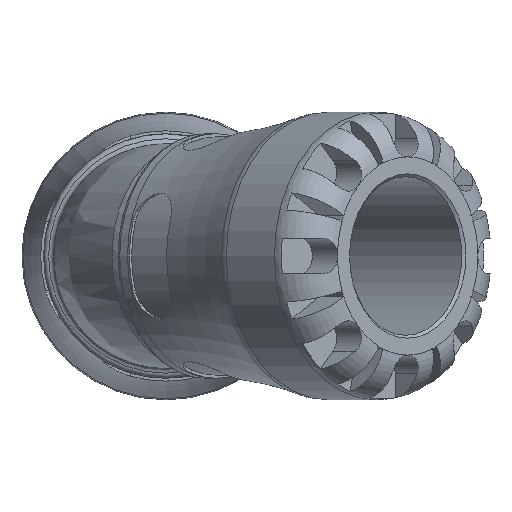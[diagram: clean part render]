
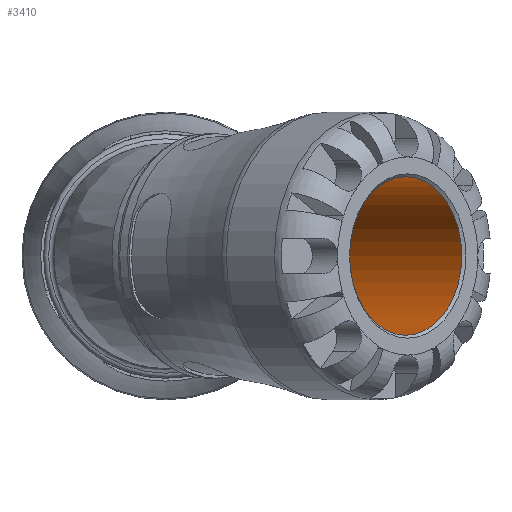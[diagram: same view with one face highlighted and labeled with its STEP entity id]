
A CAD part, left-side view. The second image highlights one B-rep face of the part: STEP entity #3410.
In plain terms, the highlighted cylindrical face has radius 16 mm (diameter 32 mm), a full revolution.
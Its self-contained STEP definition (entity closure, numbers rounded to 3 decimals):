
#160=LINE('',#5557,#330);
#330=VECTOR('',#4185,16.);
#498=CYLINDRICAL_SURFACE('',#3672,16.);
#875=FACE_OUTER_BOUND('',#1071,.T.);
#1071=EDGE_LOOP('',(#2458,#2459,#2460,#2461,#2462,#2463));
#1291=CIRCLE('',#3669,16.);
#1292=CIRCLE('',#3670,16.);
#1294=CIRCLE('',#3673,16.);
#1295=CIRCLE('',#3674,16.);
#1524=VERTEX_POINT('',#5548);
#1525=VERTEX_POINT('',#5549);
#1527=VERTEX_POINT('',#5556);
#1528=VERTEX_POINT('',#5558);
#1884=EDGE_CURVE('',#1524,#1525,#1291,.T.);
#1885=EDGE_CURVE('',#1525,#1524,#1292,.T.);
#1888=EDGE_CURVE('',#1525,#1527,#160,.T.);
#1889=EDGE_CURVE('',#1528,#1527,#1294,.T.);
#1890=EDGE_CURVE('',#1527,#1528,#1295,.T.);
#2458=ORIENTED_EDGE('',*,*,#1884,.F.);
#2459=ORIENTED_EDGE('',*,*,#1885,.F.);
#2460=ORIENTED_EDGE('',*,*,#1888,.T.);
#2461=ORIENTED_EDGE('',*,*,#1889,.F.);
#2462=ORIENTED_EDGE('',*,*,#1890,.F.);
#2463=ORIENTED_EDGE('',*,*,#1888,.F.);
#3410=ADVANCED_FACE('',(#875),#498,.F.);
#3669=AXIS2_PLACEMENT_3D('',#5550,#4176,#4177);
#3670=AXIS2_PLACEMENT_3D('',#5551,#4178,#4179);
#3672=AXIS2_PLACEMENT_3D('',#5555,#4183,#4184);
#3673=AXIS2_PLACEMENT_3D('',#5559,#4186,#4187);
#3674=AXIS2_PLACEMENT_3D('',#5560,#4188,#4189);
#4176=DIRECTION('center_axis',(0.707,0.707,0.));
#4177=DIRECTION('ref_axis',(-0.707,0.707,0.));
#4178=DIRECTION('center_axis',(0.707,0.707,0.));
#4179=DIRECTION('ref_axis',(-0.707,0.707,0.));
#4183=DIRECTION('center_axis',(-0.707,-0.707,0.));
#4184=DIRECTION('ref_axis',(0.707,-0.707,0.));
#4185=DIRECTION('',(0.707,0.707,0.));
#4186=DIRECTION('center_axis',(-0.707,-0.707,0.));
#4187=DIRECTION('ref_axis',(0.,0.,-1.));
#4188=DIRECTION('center_axis',(-0.707,-0.707,0.));
#4189=DIRECTION('ref_axis',(0.,0.,-1.));
#5548=CARTESIAN_POINT('',(-37.067,-59.694,0.));
#5549=CARTESIAN_POINT('',(-59.694,-37.067,0.));
#5550=CARTESIAN_POINT('Origin',(-48.38,-48.38,0.));
#5551=CARTESIAN_POINT('Origin',(-48.38,-48.38,0.));
#5555=CARTESIAN_POINT('Origin',(-28.991,-28.991,0.));
#5556=CARTESIAN_POINT('',(-20.506,2.121,0.));
#5557=CARTESIAN_POINT('',(-40.305,-17.678,0.));
#5558=CARTESIAN_POINT('',(2.121,-20.506,0.));
#5559=CARTESIAN_POINT('Origin',(-9.192,-9.192,0.));
#5560=CARTESIAN_POINT('Origin',(-9.192,-9.192,0.));
